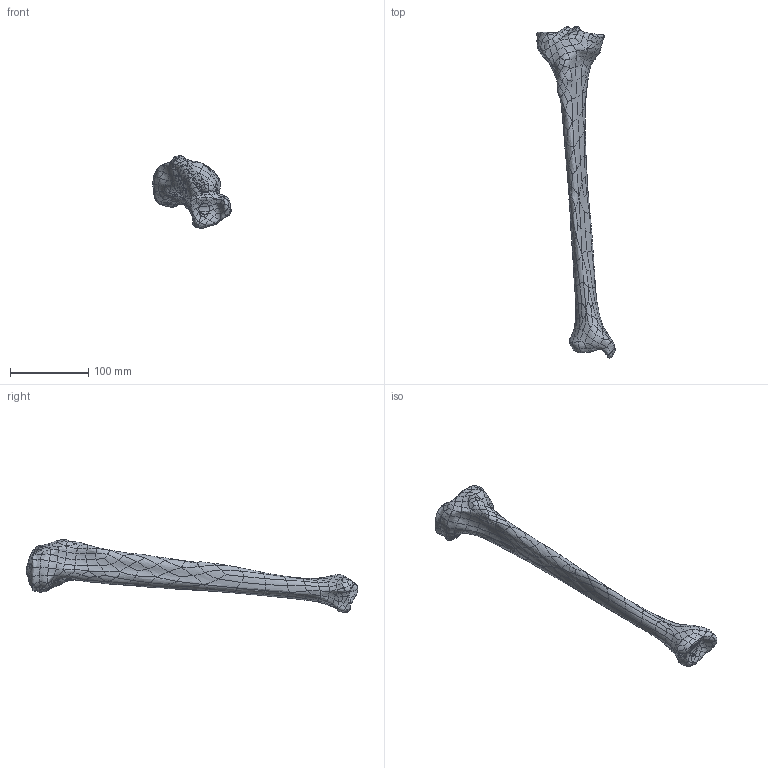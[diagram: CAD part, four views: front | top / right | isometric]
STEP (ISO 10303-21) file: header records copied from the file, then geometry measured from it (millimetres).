
FILE_DESCRIPTION (( 'STEP AP203' ), '1' );
FILE_NAME ('1126-100.STEP', '2025-06-04T20:11:13', ( '' ), ( '' ), 'SwSTEP 2.0', 'SolidWorks 2024', '' );
FILE_SCHEMA (( 'CONFIG_CONTROL_DESIGN' ));
Products named in the file (1): 1126-100
Bounding box: 100.44 x 424.96 x 93.06 mm (x, y, z)
Volume: 441112.5 mm3; surface area: 55524.3 mm2
Topology: 1 solids, 1 shells, 792 faces, 1773 edges, 984 vertices
Faces by surface type: bspline 790, plane 2
Entity records: 86778 total; most frequent: CARTESIAN_POINT 75444, ORIENTED_EDGE 3538, EDGE_CURVE 1769, B_SPLINE_CURVE_WITH_KNOTS 1766, VERTEX_POINT 984, EDGE_LOOP 797, FACE_OUTER_BOUND 792, ADVANCED_FACE 792
